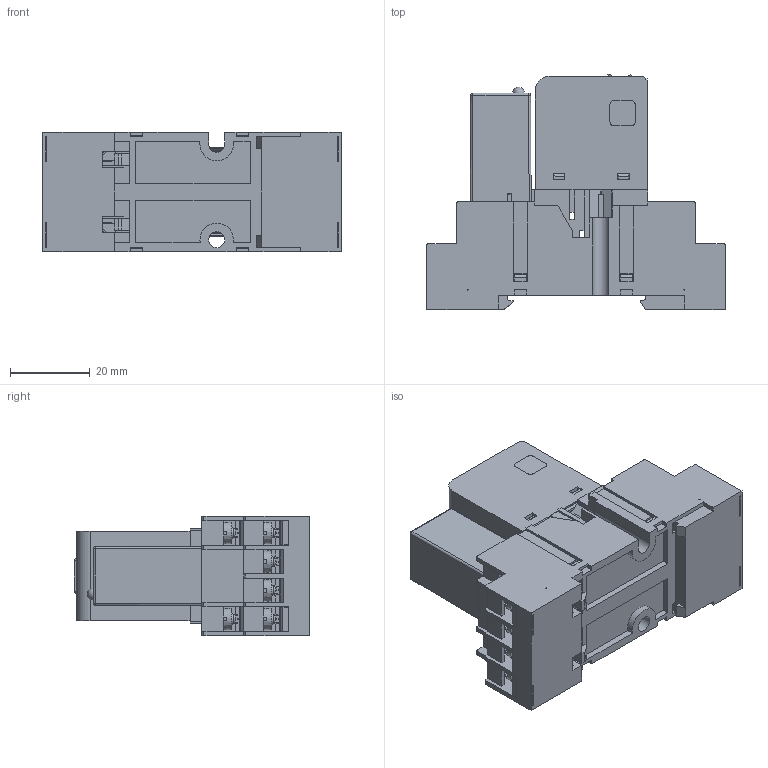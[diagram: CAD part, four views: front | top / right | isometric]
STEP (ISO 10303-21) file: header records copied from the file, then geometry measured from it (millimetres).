
FILE_DESCRIPTION(('STEP AP214'), '1');
FILE_NAME('Ðåëå ìîäóëüíîå ÐÏ30ÍÌ-004 (íà ïîêàç)', '', ('UNSPECIFIED'), ('UNSPECIFIED'), 'ASCON STEP Converter 1.6', 'ASCON Math Kernel', '');
FILE_SCHEMA(('AUTOMOTIVE_DESIGN { 1 0 10303 214 3 1 1}'));
Length unit declared in the file: millimetre
Bounding box: 74.9 x 59 x 30 mm (x, y, z)
Volume: 22559.2 mm3; surface area: 41308.7 mm2
Topology: 19 solids, 19 shells, 4072 faces, 11423 edges, 7314 vertices
Faces by surface type: plane 2959, cylinder 669, torus 196, bspline 148, cone 99, sphere 1
Full cylindrical faces by diameter (mm): 0.3 x2, 0.6 x2, 2.3 x14, 3 x30, 3.2 x1, 3.54 x14, 4 x1, 4.5 x14
Entity records: 187781 total; most frequent: CARTESIAN_POINT 53718, ORIENTED_EDGE 22536, DIRECTION 18757, EDGE_CURVE 11268, LINE 7837, VECTOR 7837, VERTEX_POINT 7315, AXIS2_PLACEMENT_3D 5460
